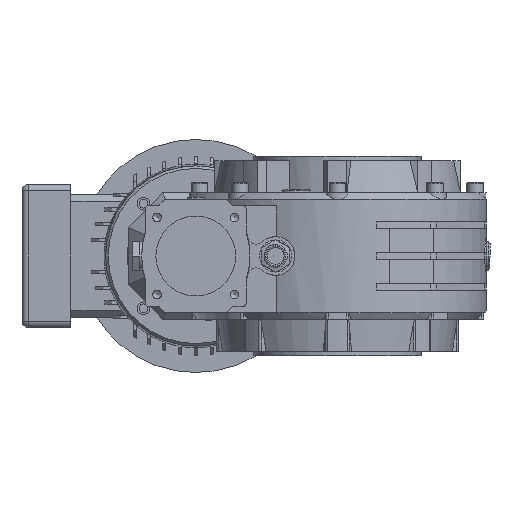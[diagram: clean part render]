
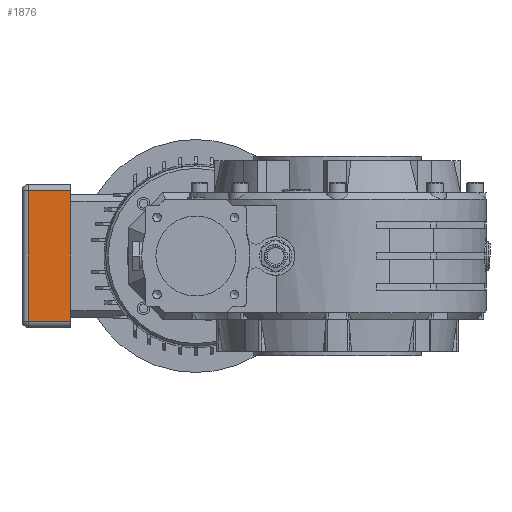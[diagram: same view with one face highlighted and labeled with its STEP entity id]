
A CAD part, left-side view. The second image highlights one B-rep face of the part: STEP entity #1876.
In plain terms, the highlighted planar face has unit normal (-1, 0, 0).
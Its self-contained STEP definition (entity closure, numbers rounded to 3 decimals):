
#1876 = ADVANCED_FACE( '', ( #5036 ), #5037, .T. );
#5036 = FACE_OUTER_BOUND( '', #9427, .T. );
#5037 = PLANE( '', #9428 );
#9427 = EDGE_LOOP( '', ( #16035, #16036, #16037, #16038 ) );
#9428 = AXIS2_PLACEMENT_3D( '', #16039, #16040, #16041 );
#16035 = ORIENTED_EDGE( '', *, *, #25168, .T. );
#16036 = ORIENTED_EDGE( '', *, *, #25169, .T. );
#16037 = ORIENTED_EDGE( '', *, *, #23527, .T. );
#16038 = ORIENTED_EDGE( '', *, *, #25170, .T. );
#16039 = CARTESIAN_POINT( '', ( 180., 207., -55.5 ) );
#16040 = DIRECTION( '', ( -1., 0., 0. ) );
#16041 = DIRECTION( '', ( 0., 0., -1. ) );
#23527 = EDGE_CURVE( '', #27538, #27536, #27539, .T. );
#25168 = EDGE_CURVE( '', #30325, #27609, #30326, .T. );
#25169 = EDGE_CURVE( '', #27609, #27538, #30327, .T. );
#25170 = EDGE_CURVE( '', #27536, #30325, #30328, .T. );
#27536 = VERTEX_POINT( '', #33463 );
#27538 = VERTEX_POINT( '', #33465 );
#27539 = LINE( '', #33466, #33467 );
#27609 = VERTEX_POINT( '', #33563 );
#30325 = VERTEX_POINT( '', #37765 );
#30326 = LINE( '', #37766, #37767 );
#30327 = LINE( '', #37768, #37769 );
#30328 = LINE( '', #37770, #37771 );
#33463 = CARTESIAN_POINT( '', ( 180., 207., 50.5 ) );
#33465 = CARTESIAN_POINT( '', ( 180., 207., -50.5 ) );
#33466 = CARTESIAN_POINT( '', ( 180., 207., -55.5 ) );
#33467 = VECTOR( '', #42775, 1000. );
#33563 = CARTESIAN_POINT( '', ( 180., 240., -50.5 ) );
#37765 = CARTESIAN_POINT( '', ( 180., 240., 50.5 ) );
#37766 = CARTESIAN_POINT( '', ( 180., 240., -55.5 ) );
#37767 = VECTOR( '', #44942, 1000. );
#37768 = CARTESIAN_POINT( '', ( 180., 207., -50.5 ) );
#37769 = VECTOR( '', #44943, 1000. );
#37770 = CARTESIAN_POINT( '', ( 180., 207., 50.5 ) );
#37771 = VECTOR( '', #44944, 1000. );
#42775 = DIRECTION( '', ( 0., 0., 1. ) );
#44942 = DIRECTION( '', ( 0., 0., -1. ) );
#44943 = DIRECTION( '', ( 0., -1., 0. ) );
#44944 = DIRECTION( '', ( 0., 1., 0. ) );
